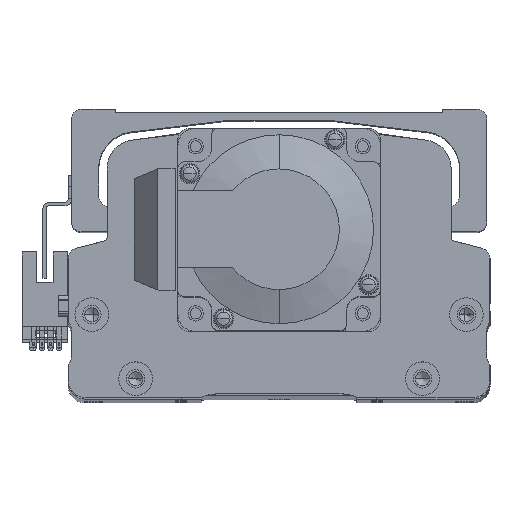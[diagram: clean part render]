
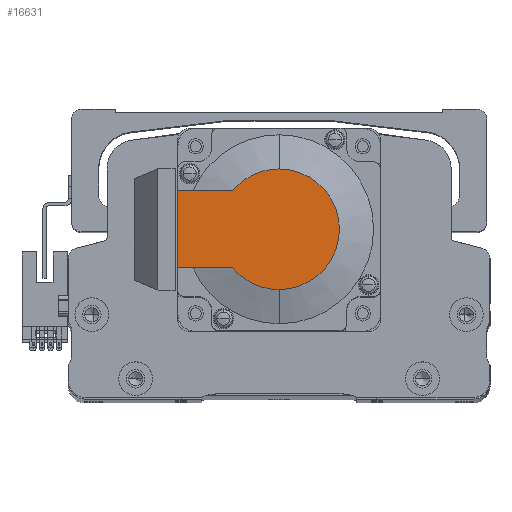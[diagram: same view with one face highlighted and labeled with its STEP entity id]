
A CAD part, top view. The second image highlights one B-rep face of the part: STEP entity #16631.
In plain terms, the highlighted planar face has unit normal (0, 0, 1) as drawn and (-1, 0, 0) by its records, which use the part's own axes.
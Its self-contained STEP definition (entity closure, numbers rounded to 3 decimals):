
#2569 = DIRECTION ( 'NONE',  ( -1., 0., 0. ) ) ;
#3659 = DIRECTION ( 'NONE',  ( -1., 0., 0. ) ) ;
#3850 = CIRCLE ( 'NONE', #23868, 17.881 ) ;
#4314 = DIRECTION ( 'NONE',  ( -1., 0., 0. ) ) ;
#4431 = LINE ( 'NONE', #37389, #14579 ) ;
#4515 = VERTEX_POINT ( 'NONE', #25951 ) ;
#8661 = CARTESIAN_POINT ( 'NONE',  ( -118.5, 13.735, 11.45 ) ) ;
#8700 = AXIS2_PLACEMENT_3D ( 'NONE', #50671, #24953, #54953 ) ;
#9481 = VECTOR ( 'NONE', #19975, 1000. ) ;
#10305 = VERTEX_POINT ( 'NONE', #11472 ) ;
#11392 = EDGE_LOOP ( 'NONE', ( #14509, #22985, #30407, #50424, #51841, #20009 ) ) ;
#11472 = CARTESIAN_POINT ( 'NONE',  ( -118.5, 0., 17.881 ) ) ;
#12824 = CARTESIAN_POINT ( 'NONE',  ( -118.5, -8.941, -11.45 ) ) ;
#13386 = EDGE_CURVE ( 'NONE', #22792, #10305, #41415, .T. ) ;
#14509 = ORIENTED_EDGE ( 'NONE', *, *, #28744, .T. ) ;
#14579 = VECTOR ( 'NONE', #45897, 1000. ) ;
#16631 = ADVANCED_FACE ( 'NONE', ( #17186 ), #19526, .T. ) ;
#16808 = CARTESIAN_POINT ( 'NONE',  ( -118.5, 30., -11.45 ) ) ;
#17186 = FACE_OUTER_BOUND ( 'NONE', #11392, .T. ) ;
#18451 = EDGE_CURVE ( 'NONE', #10305, #33480, #21677, .T. ) ;
#19526 = PLANE ( 'NONE',  #33770 ) ;
#19975 = DIRECTION ( 'NONE',  ( 0., 0., 1. ) ) ;
#20009 = ORIENTED_EDGE ( 'NONE', *, *, #25427, .F. ) ;
#21677 = CIRCLE ( 'NONE', #50806, 17.881 ) ;
#22792 = VERTEX_POINT ( 'NONE', #54539 ) ;
#22985 = ORIENTED_EDGE ( 'NONE', *, *, #26659, .T. ) ;
#23868 = AXIS2_PLACEMENT_3D ( 'NONE', #30128, #4314, #34471 ) ;
#24953 = DIRECTION ( 'NONE',  ( -1., 0., 0. ) ) ;
#25124 = LINE ( 'NONE', #12824, #35204 ) ;
#25427 = EDGE_CURVE ( 'NONE', #43622, #4515, #42517, .T. ) ;
#25951 = CARTESIAN_POINT ( 'NONE',  ( -118.5, 30., 11.45 ) ) ;
#26479 = CARTESIAN_POINT ( 'NONE',  ( -118.5, 13.735, -11.45 ) ) ;
#26659 = EDGE_CURVE ( 'NONE', #55759, #22792, #3850, .T. ) ;
#27496 = EDGE_CURVE ( 'NONE', #4515, #33480, #4431, .T. ) ;
#28361 = CARTESIAN_POINT ( 'NONE',  ( -118.5, -8.941, 0. ) ) ;
#28744 = EDGE_CURVE ( 'NONE', #43622, #55759, #25124, .T. ) ;
#29456 = CARTESIAN_POINT ( 'NONE',  ( -118.5, 0., 0. ) ) ;
#30128 = CARTESIAN_POINT ( 'NONE',  ( -118.5, 0., 0. ) ) ;
#30407 = ORIENTED_EDGE ( 'NONE', *, *, #13386, .T. ) ;
#32653 = DIRECTION ( 'NONE',  ( 0., 0., 1. ) ) ;
#33480 = VERTEX_POINT ( 'NONE', #8661 ) ;
#33770 = AXIS2_PLACEMENT_3D ( 'NONE', #28361, #2569, #32653 ) ;
#33790 = DIRECTION ( 'NONE',  ( 0., 0., -1. ) ) ;
#34471 = DIRECTION ( 'NONE',  ( 0., 0., -1. ) ) ;
#35204 = VECTOR ( 'NONE', #42927, 1000. ) ;
#37389 = CARTESIAN_POINT ( 'NONE',  ( -118.5, 0., 11.45 ) ) ;
#41415 = CIRCLE ( 'NONE', #8700, 17.881 ) ;
#42517 = LINE ( 'NONE', #45760, #9481 ) ;
#42927 = DIRECTION ( 'NONE',  ( 0., -1., 0. ) ) ;
#43622 = VERTEX_POINT ( 'NONE', #16808 ) ;
#45760 = CARTESIAN_POINT ( 'NONE',  ( -118.5, 30., 25. ) ) ;
#45897 = DIRECTION ( 'NONE',  ( 0., -1., 0. ) ) ;
#50424 = ORIENTED_EDGE ( 'NONE', *, *, #18451, .T. ) ;
#50671 = CARTESIAN_POINT ( 'NONE',  ( -118.5, 0., 0. ) ) ;
#50806 = AXIS2_PLACEMENT_3D ( 'NONE', #29456, #3659, #33790 ) ;
#51841 = ORIENTED_EDGE ( 'NONE', *, *, #27496, .F. ) ;
#54539 = CARTESIAN_POINT ( 'NONE',  ( -118.5, 0., -17.881 ) ) ;
#54953 = DIRECTION ( 'NONE',  ( 0., 0., -1. ) ) ;
#55759 = VERTEX_POINT ( 'NONE', #26479 ) ;
